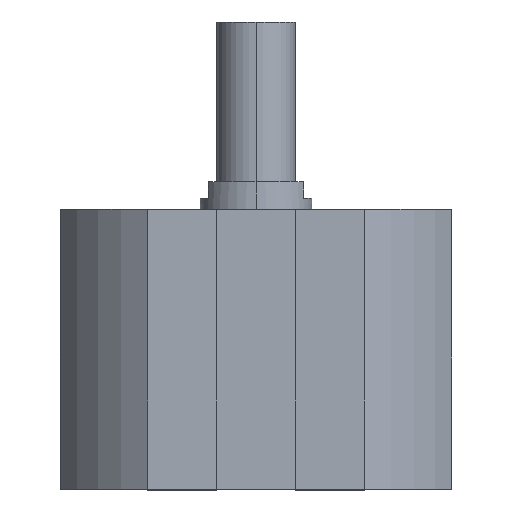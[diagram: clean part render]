
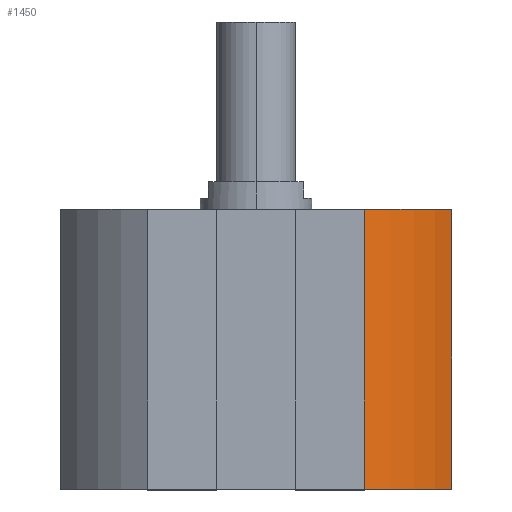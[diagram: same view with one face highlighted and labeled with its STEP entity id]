
A CAD part, top view. The second image highlights one B-rep face of the part: STEP entity #1450.
In plain terms, the highlighted cylindrical face has radius 40 mm (diameter 80 mm), a partial arc.
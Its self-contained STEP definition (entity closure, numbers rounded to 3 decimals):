
#35 = FACE_OUTER_BOUND ( 'NONE', #1350, .T. ) ;
#49 = CARTESIAN_POINT ( 'NONE',  ( 19.365, -50., 35. ) ) ;
#166 = AXIS2_PLACEMENT_3D ( 'NONE', #262, #512, #3006 ) ;
#213 = LINE ( 'NONE', #2465, #564 ) ;
#262 = CARTESIAN_POINT ( 'NONE',  ( 0., -50., 0. ) ) ;
#390 = ORIENTED_EDGE ( 'NONE', *, *, #1538, .F. ) ;
#496 = ORIENTED_EDGE ( 'NONE', *, *, #1442, .F. ) ;
#512 = DIRECTION ( 'NONE',  ( 0., 1., 0. ) ) ;
#564 = VECTOR ( 'NONE', #2712, 1000. ) ;
#786 = DIRECTION ( 'NONE',  ( 0., 1., 0. ) ) ;
#799 = AXIS2_PLACEMENT_3D ( 'NONE', #1344, #1321, #2565 ) ;
#1033 = EDGE_CURVE ( 'NONE', #3263, #1584, #2658, .T. ) ;
#1250 = CARTESIAN_POINT ( 'NONE',  ( 0., 0., 0. ) ) ;
#1251 = CARTESIAN_POINT ( 'NONE',  ( 19.365, -50., 35. ) ) ;
#1258 = VERTEX_POINT ( 'NONE', #3154 ) ;
#1321 = DIRECTION ( 'NONE',  ( 0., 1., 0. ) ) ;
#1344 = CARTESIAN_POINT ( 'NONE',  ( 0., -50., 0. ) ) ;
#1350 = EDGE_LOOP ( 'NONE', ( #496, #390, #2723, #3005 ) ) ;
#1397 = CIRCLE ( 'NONE', #2753, 40. ) ;
#1442 = EDGE_CURVE ( 'NONE', #3031, #1258, #1397, .T. ) ;
#1450 = ADVANCED_FACE ( 'NONE', ( #35 ), #1859, .T. ) ;
#1538 = EDGE_CURVE ( 'NONE', #3263, #3031, #3148, .T. ) ;
#1584 = VERTEX_POINT ( 'NONE', #1813 ) ;
#1752 = VECTOR ( 'NONE', #786, 1000. ) ;
#1785 = DIRECTION ( 'NONE',  ( 0., 1., 0. ) ) ;
#1813 = CARTESIAN_POINT ( 'NONE',  ( 35., -50., 19.365 ) ) ;
#1859 = CYLINDRICAL_SURFACE ( 'NONE', #166, 40. ) ;
#1945 = CARTESIAN_POINT ( 'NONE',  ( 19.365, 0., 35. ) ) ;
#2465 = CARTESIAN_POINT ( 'NONE',  ( 35., -50., 19.365 ) ) ;
#2565 = DIRECTION ( 'NONE',  ( 0., 0., 1. ) ) ;
#2658 = CIRCLE ( 'NONE', #799, 40. ) ;
#2712 = DIRECTION ( 'NONE',  ( 0., 1., 0. ) ) ;
#2723 = ORIENTED_EDGE ( 'NONE', *, *, #1033, .T. ) ;
#2753 = AXIS2_PLACEMENT_3D ( 'NONE', #1250, #1785, #2762 ) ;
#2762 = DIRECTION ( 'NONE',  ( 0., 0., 1. ) ) ;
#3005 = ORIENTED_EDGE ( 'NONE', *, *, #3122, .T. ) ;
#3006 = DIRECTION ( 'NONE',  ( 0., 0., 1. ) ) ;
#3031 = VERTEX_POINT ( 'NONE', #1945 ) ;
#3122 = EDGE_CURVE ( 'NONE', #1584, #1258, #213, .T. ) ;
#3148 = LINE ( 'NONE', #49, #1752 ) ;
#3154 = CARTESIAN_POINT ( 'NONE',  ( 35., 0., 19.365 ) ) ;
#3263 = VERTEX_POINT ( 'NONE', #1251 ) ;
